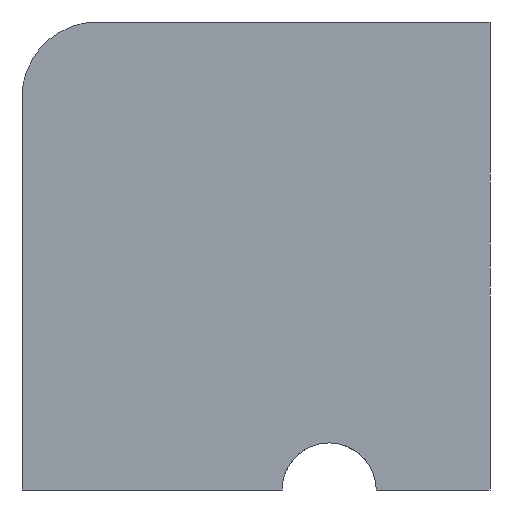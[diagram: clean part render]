
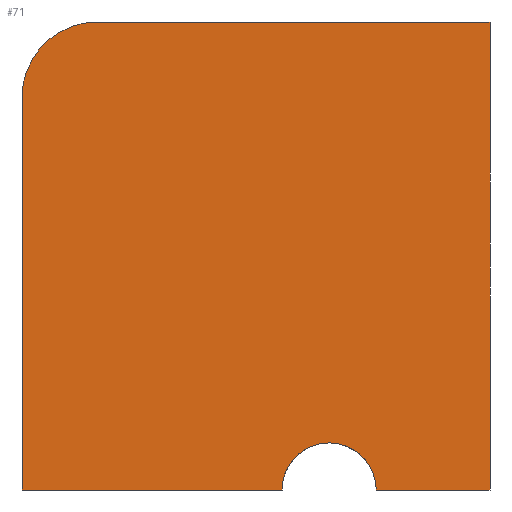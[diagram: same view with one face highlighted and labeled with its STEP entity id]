
A CAD part, left-side view. The second image highlights one B-rep face of the part: STEP entity #71.
In plain terms, the highlighted planar face has unit normal (-1, 0, 0).
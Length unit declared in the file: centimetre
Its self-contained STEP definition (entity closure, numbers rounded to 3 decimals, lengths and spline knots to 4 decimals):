
#7 = EDGE_CURVE ( 'NONE', #618, #460, #45, .T. ) ;
#13 = CIRCLE ( 'NONE', #303, 160.8587 ) ;
#19 = DIRECTION ( 'NONE',  ( 0., -1., 0. ) ) ;
#26 = LINE ( 'NONE', #232, #256 ) ;
#42 = DIRECTION ( 'NONE',  ( 0., 0., -1. ) ) ;
#44 = DIRECTION ( 'NONE',  ( 0., -1., 0. ) ) ;
#45 = LINE ( 'NONE', #168, #418 ) ;
#56 = LINE ( 'NONE', #417, #126 ) ;
#71 = ADVANCED_FACE ( 'NONE', ( #261 ), #247, .F. ) ;
#90 = DIRECTION ( 'NONE',  ( 0., 0., -1. ) ) ;
#99 = CARTESIAN_POINT ( 'NONE',  ( 0., 1000., 1000. ) ) ;
#118 = CARTESIAN_POINT ( 'NONE',  ( 0., 839.1413, 1000. ) ) ;
#126 = VECTOR ( 'NONE', #44, 100. ) ;
#159 = CARTESIAN_POINT ( 'NONE',  ( 0., 343.7746, 0. ) ) ;
#168 = CARTESIAN_POINT ( 'NONE',  ( 0., 0., 1000. ) ) ;
#172 = VERTEX_POINT ( 'NONE', #934 ) ;
#180 = CARTESIAN_POINT ( 'NONE',  ( 0., 1000., 1000. ) ) ;
#187 = VERTEX_POINT ( 'NONE', #217 ) ;
#193 = CARTESIAN_POINT ( 'NONE',  ( 0., 343.7746, 0. ) ) ;
#203 = CARTESIAN_POINT ( 'NONE',  ( 0., 839.1413, 839.1413 ) ) ;
#217 = CARTESIAN_POINT ( 'NONE',  ( 0., 1000., 0. ) ) ;
#232 = CARTESIAN_POINT ( 'NONE',  ( 0., 1000., 0. ) ) ;
#247 = PLANE ( 'NONE',  #355 ) ;
#256 = VECTOR ( 'NONE', #19, 100. ) ;
#257 = AXIS2_PLACEMENT_3D ( 'NONE', #193, #925, #260 ) ;
#260 = DIRECTION ( 'NONE',  ( 0., 0., 1. ) ) ;
#261 = FACE_OUTER_BOUND ( 'NONE', #686, .T. ) ;
#303 = AXIS2_PLACEMENT_3D ( 'NONE', #203, #796, #520 ) ;
#309 = VERTEX_POINT ( 'NONE', #118 ) ;
#330 = ORIENTED_EDGE ( 'NONE', *, *, #652, .T. ) ;
#338 = DIRECTION ( 'NONE',  ( 1., 0., 0. ) ) ;
#355 = AXIS2_PLACEMENT_3D ( 'NONE', #469, #338, #42 ) ;
#357 = CIRCLE ( 'NONE', #631, 100.6534 ) ;
#382 = ORIENTED_EDGE ( 'NONE', *, *, #950, .F. ) ;
#387 = VERTEX_POINT ( 'NONE', #584 ) ;
#395 = LINE ( 'NONE', #180, #677 ) ;
#417 = CARTESIAN_POINT ( 'NONE',  ( 0., 1000., 0. ) ) ;
#418 = VECTOR ( 'NONE', #905, 100. ) ;
#428 = EDGE_CURVE ( 'NONE', #309, #618, #395, .T. ) ;
#458 = VERTEX_POINT ( 'NONE', #674 ) ;
#460 = VERTEX_POINT ( 'NONE', #605 ) ;
#462 = ORIENTED_EDGE ( 'NONE', *, *, #428, .F. ) ;
#469 = CARTESIAN_POINT ( 'NONE',  ( 0., 1000., 1000. ) ) ;
#499 = EDGE_CURVE ( 'NONE', #187, #172, #26, .T. ) ;
#520 = DIRECTION ( 'NONE',  ( 0., 0., -1. ) ) ;
#523 = EDGE_CURVE ( 'NONE', #458, #187, #757, .T. ) ;
#582 = ORIENTED_EDGE ( 'NONE', *, *, #829, .T. ) ;
#584 = CARTESIAN_POINT ( 'NONE',  ( 0., 243.1212, 0. ) ) ;
#599 = DIRECTION ( 'NONE',  ( 0., 0., 1. ) ) ;
#605 = CARTESIAN_POINT ( 'NONE',  ( 0., 0., 0. ) ) ;
#607 = ORIENTED_EDGE ( 'NONE', *, *, #735, .F. ) ;
#618 = VERTEX_POINT ( 'NONE', #697 ) ;
#631 = AXIS2_PLACEMENT_3D ( 'NONE', #159, #738, #599 ) ;
#652 = EDGE_CURVE ( 'NONE', #387, #460, #56, .T. ) ;
#674 = CARTESIAN_POINT ( 'NONE',  ( 0., 1000., 839.1413 ) ) ;
#675 = ORIENTED_EDGE ( 'NONE', *, *, #523, .T. ) ;
#677 = VECTOR ( 'NONE', #684, 100. ) ;
#684 = DIRECTION ( 'NONE',  ( 0., -1., 0. ) ) ;
#686 = EDGE_LOOP ( 'NONE', ( #841, #382, #607, #330, #749, #462, #582, #675 ) ) ;
#687 = VERTEX_POINT ( 'NONE', #705 ) ;
#697 = CARTESIAN_POINT ( 'NONE',  ( 0., 0., 1000. ) ) ;
#705 = CARTESIAN_POINT ( 'NONE',  ( 0., 343.7746, 100.6534 ) ) ;
#735 = EDGE_CURVE ( 'NONE', #387, #687, #906, .T. ) ;
#738 = DIRECTION ( 'NONE',  ( -1., 0., 0. ) ) ;
#749 = ORIENTED_EDGE ( 'NONE', *, *, #7, .F. ) ;
#757 = LINE ( 'NONE', #99, #804 ) ;
#796 = DIRECTION ( 'NONE',  ( -1., 0., 0. ) ) ;
#804 = VECTOR ( 'NONE', #90, 100. ) ;
#829 = EDGE_CURVE ( 'NONE', #309, #458, #13, .T. ) ;
#841 = ORIENTED_EDGE ( 'NONE', *, *, #499, .T. ) ;
#905 = DIRECTION ( 'NONE',  ( 0., 0., -1. ) ) ;
#906 = CIRCLE ( 'NONE', #257, 100.6534 ) ;
#925 = DIRECTION ( 'NONE',  ( -1., 0., 0. ) ) ;
#934 = CARTESIAN_POINT ( 'NONE',  ( 0., 444.428, 0. ) ) ;
#950 = EDGE_CURVE ( 'NONE', #687, #172, #357, .T. ) ;
